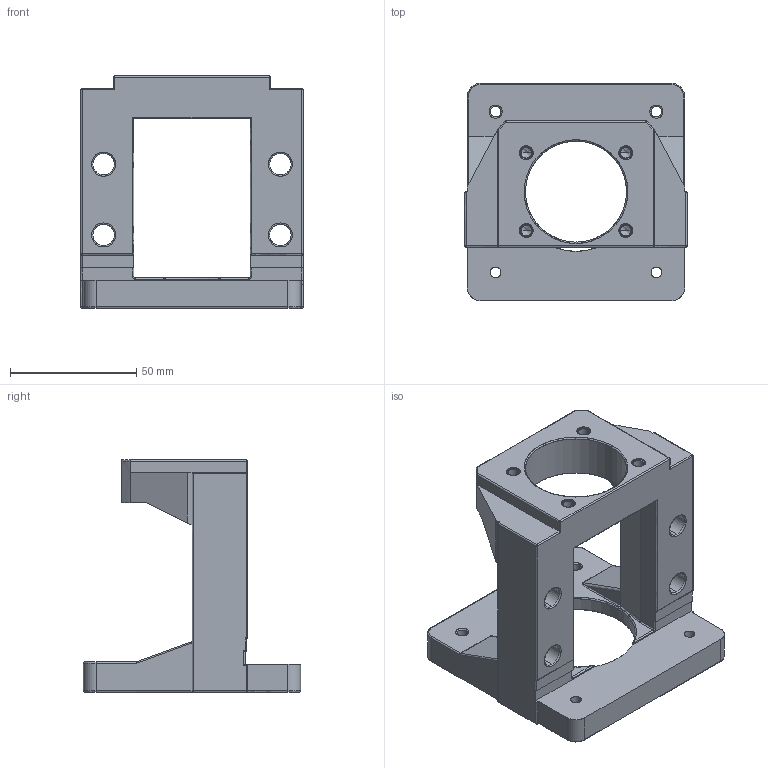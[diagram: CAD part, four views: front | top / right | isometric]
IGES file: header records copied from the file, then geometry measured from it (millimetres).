
Start section: SolidWorks IGES file using analytic representation for surfaces
Bounding box: 88 x 86 x 92 mm (x, y, z)
Surface area: 41029.8 mm2 (no closed solid volume)
Topology: 0 solids, 0 shells, 248 faces, 2742 edges, 2722 vertices
Faces by surface type: revolution 145, bspline 103
